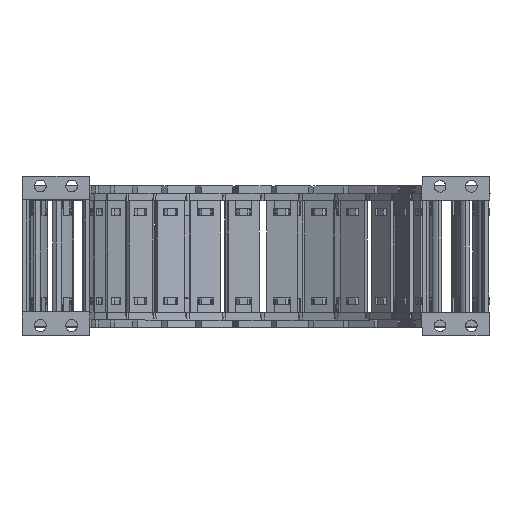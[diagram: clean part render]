
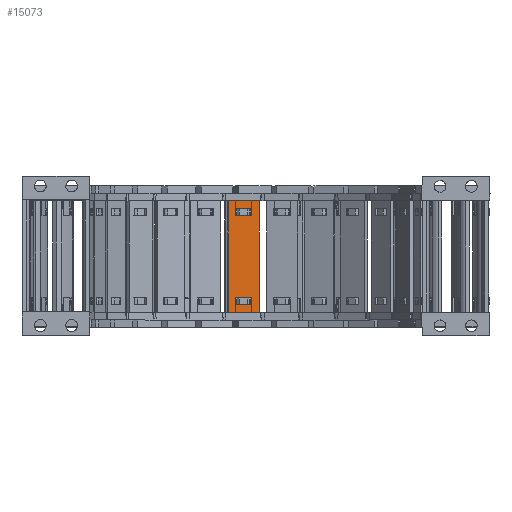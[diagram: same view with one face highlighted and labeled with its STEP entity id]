
A CAD part, top view. The second image highlights one B-rep face of the part: STEP entity #15073.
In plain terms, the highlighted planar face has unit normal (0.048, 0, 0.999).
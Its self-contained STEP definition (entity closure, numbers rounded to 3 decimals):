
#162=FACE_BOUND('',#30481,.T.);
#163=FACE_BOUND('',#30482,.T.);
#164=FACE_BOUND('',#30483,.T.);
#8711=PLANE('',#146224);
#15073=ADVANCED_FACE('',(#162,#163,#164),#8711,.F.);
#30481=EDGE_LOOP('',(#63649,#63650,#63651,#63652));
#30482=EDGE_LOOP('',(#63653,#63654,#63655,#63656));
#30483=EDGE_LOOP('',(#63657,#63658,#63659,#63660));
#63649=ORIENTED_EDGE('',*,*,#104155,.F.);
#63650=ORIENTED_EDGE('',*,*,#104126,.F.);
#63651=ORIENTED_EDGE('',*,*,#104160,.F.);
#63652=ORIENTED_EDGE('',*,*,#104137,.F.);
#63653=ORIENTED_EDGE('',*,*,#104172,.F.);
#63654=ORIENTED_EDGE('',*,*,#104165,.F.);
#63655=ORIENTED_EDGE('',*,*,#104204,.F.);
#63656=ORIENTED_EDGE('',*,*,#104179,.T.);
#63657=ORIENTED_EDGE('',*,*,#104202,.T.);
#63658=ORIENTED_EDGE('',*,*,#104205,.F.);
#63659=ORIENTED_EDGE('',*,*,#104206,.F.);
#63660=ORIENTED_EDGE('',*,*,#104207,.F.);
#86184=VERTEX_POINT('',#224477);
#86185=VERTEX_POINT('',#224479);
#86191=VERTEX_POINT('',#224494);
#86194=VERTEX_POINT('',#224500);
#86211=VERTEX_POINT('',#224557);
#86212=VERTEX_POINT('',#224558);
#86218=VERTEX_POINT('',#224572);
#86221=VERTEX_POINT('',#224580);
#86234=VERTEX_POINT('',#224627);
#86235=VERTEX_POINT('',#224629);
#86236=VERTEX_POINT('',#224634);
#86237=VERTEX_POINT('',#224636);
#104126=EDGE_CURVE('',#86184,#86185,#119852,.T.);
#104137=EDGE_CURVE('',#86194,#86191,#119863,.T.);
#104155=EDGE_CURVE('',#86185,#86194,#119878,.T.);
#104160=EDGE_CURVE('',#86191,#86184,#119883,.T.);
#104165=EDGE_CURVE('',#86211,#86212,#119888,.T.);
#104172=EDGE_CURVE('',#86212,#86218,#119895,.T.);
#104179=EDGE_CURVE('',#86221,#86218,#119902,.T.);
#104202=EDGE_CURVE('',#86235,#86234,#119916,.T.);
#104204=EDGE_CURVE('',#86221,#86211,#119918,.T.);
#104205=EDGE_CURVE('',#86236,#86234,#119919,.T.);
#104206=EDGE_CURVE('',#86237,#86236,#119920,.T.);
#104207=EDGE_CURVE('',#86235,#86237,#119921,.T.);
#119852=LINE('',#224478,#133314);
#119863=LINE('',#224501,#133325);
#119878=LINE('',#224536,#133340);
#119883=LINE('',#224545,#133345);
#119888=LINE('',#224556,#133350);
#119895=LINE('',#224571,#133357);
#119902=LINE('',#224584,#133364);
#119916=LINE('',#224628,#133378);
#119918=LINE('',#224632,#133380);
#119919=LINE('',#224633,#133381);
#119920=LINE('',#224635,#133382);
#119921=LINE('',#224637,#133383);
#133314=VECTOR('',#175489,1.);
#133325=VECTOR('',#175504,1.);
#133340=VECTOR('',#175539,1.);
#133345=VECTOR('',#175548,1.);
#133350=VECTOR('',#175557,1.);
#133357=VECTOR('',#175566,1.);
#133364=VECTOR('',#175575,1.);
#133378=VECTOR('',#175625,1.);
#133380=VECTOR('',#175629,1.);
#133381=VECTOR('',#175630,1.);
#133382=VECTOR('',#175631,1.);
#133383=VECTOR('',#175632,1.);
#146224=AXIS2_PLACEMENT_3D('',#224638,#175633,#175634);
#175489=DIRECTION('',(0.999,0.,-0.048));
#175504=DIRECTION('',(-0.999,0.,0.048));
#175539=DIRECTION('',(0.,1.,0.));
#175548=DIRECTION('',(0.,-1.,0.));
#175557=DIRECTION('',(-0.999,0.,0.048));
#175566=DIRECTION('',(0.,-1.,0.));
#175575=DIRECTION('',(-0.999,0.,0.048));
#175625=DIRECTION('',(0.,-1.,0.));
#175629=DIRECTION('',(0.,1.,0.));
#175630=DIRECTION('',(-0.999,0.,0.048));
#175631=DIRECTION('',(0.,-1.,0.));
#175632=DIRECTION('',(0.999,0.,-0.048));
#175633=DIRECTION('',(-0.048,0.,-0.999));
#175634=DIRECTION('',(-0.999,0.,0.048));
#224477=CARTESIAN_POINT('',(-112.088,-53.03,-104.598));
#224478=CARTESIAN_POINT('',(-112.088,-53.03,-104.598));
#224479=CARTESIAN_POINT('',(-103.947,-53.03,-104.989));
#224494=CARTESIAN_POINT('',(-112.088,-49.382,-104.598));
#224500=CARTESIAN_POINT('',(-103.947,-49.382,-104.989));
#224501=CARTESIAN_POINT('',(-103.947,-49.382,-104.989));
#224536=CARTESIAN_POINT('',(-103.947,-84.46,-104.989));
#224545=CARTESIAN_POINT('',(-112.088,-80.86,-104.598));
#224556=CARTESIAN_POINT('',(-103.947,-3.97,-104.989));
#224557=CARTESIAN_POINT('',(-103.947,-3.97,-104.989));
#224558=CARTESIAN_POINT('',(-112.088,-3.97,-104.598));
#224571=CARTESIAN_POINT('',(-112.088,-3.97,-104.598));
#224572=CARTESIAN_POINT('',(-112.088,-7.618,-104.598));
#224580=CARTESIAN_POINT('',(-103.947,-7.618,-104.989));
#224584=CARTESIAN_POINT('',(-103.947,-7.618,-104.989));
#224627=CARTESIAN_POINT('',(-115.908,-57.,-104.414));
#224628=CARTESIAN_POINT('',(-115.908,0.,-104.414));
#224629=CARTESIAN_POINT('',(-115.908,0.,-104.414));
#224632=CARTESIAN_POINT('',(-103.947,-7.618,-104.989));
#224633=CARTESIAN_POINT('',(-100.127,-57.,-105.172));
#224634=CARTESIAN_POINT('',(-100.127,-57.,-105.172));
#224635=CARTESIAN_POINT('',(-100.127,0.,-105.172));
#224636=CARTESIAN_POINT('',(-100.127,0.,-105.172));
#224637=CARTESIAN_POINT('',(-115.908,0.,-104.414));
#224638=CARTESIAN_POINT('',(-97.969,31.74,-105.276));
